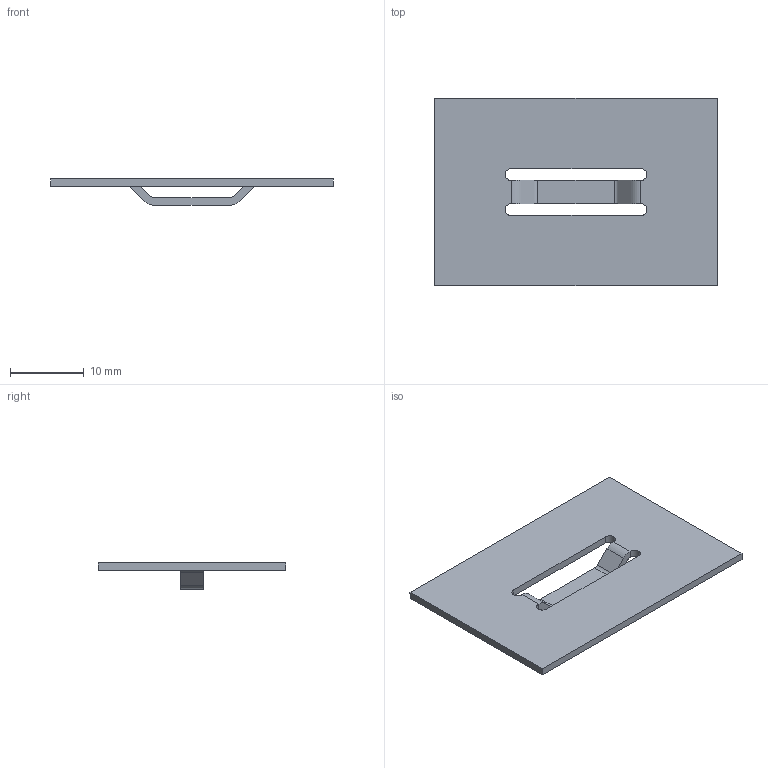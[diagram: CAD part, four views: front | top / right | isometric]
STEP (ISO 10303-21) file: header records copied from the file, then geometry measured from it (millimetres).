
FILE_DESCRIPTION((''),'1');
FILE_NAME('C:/Users/ericfrey/Desktop/LANCE TOOL 935021753.stp', '2017-07-11T22:23:42',(''), (''), 'KCM Version 1.1.2016.0', 'Kubotek KeyCreator', '');
FILE_SCHEMA(('AUTOMOTIVE_DESIGN'));
Length unit declared in the file: inch
Bounding box: 38.29 x 25.4 x 3.56 mm (x, y, z)
Volume: 933.3 mm3; surface area: 2052 mm2
Topology: 1 solids, 1 shells, 28 faces, 84 edges, 56 vertices
Faces by surface type: plane 16, cylinder 12
Entity records: 953 total; most frequent: CARTESIAN_POINT 201, ORIENTED_EDGE 168, DIRECTION 134, EDGE_CURVE 84, VERTEX_POINT 56, AXIS2_PLACEMENT_3D 53, B_SPLINE_CURVE_WITH_KNOTS 32, EDGE_LOOP 30
